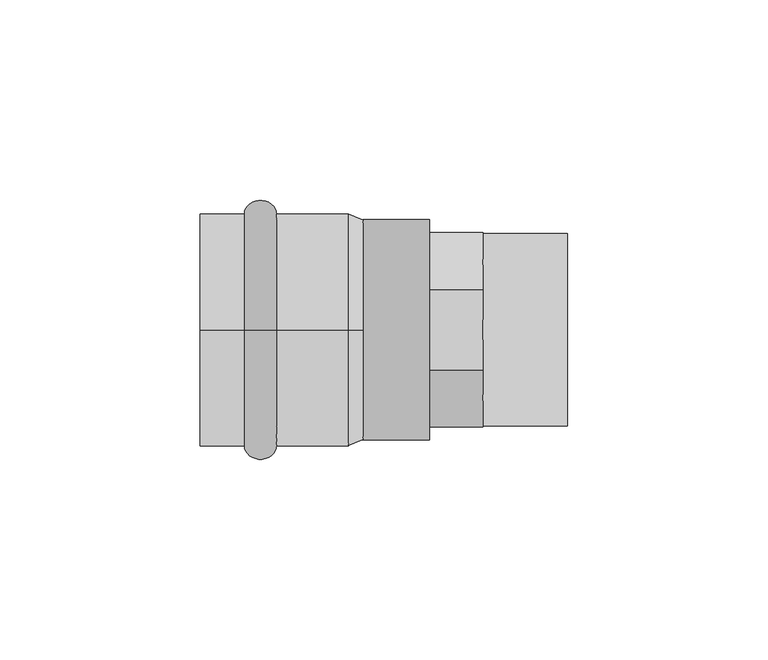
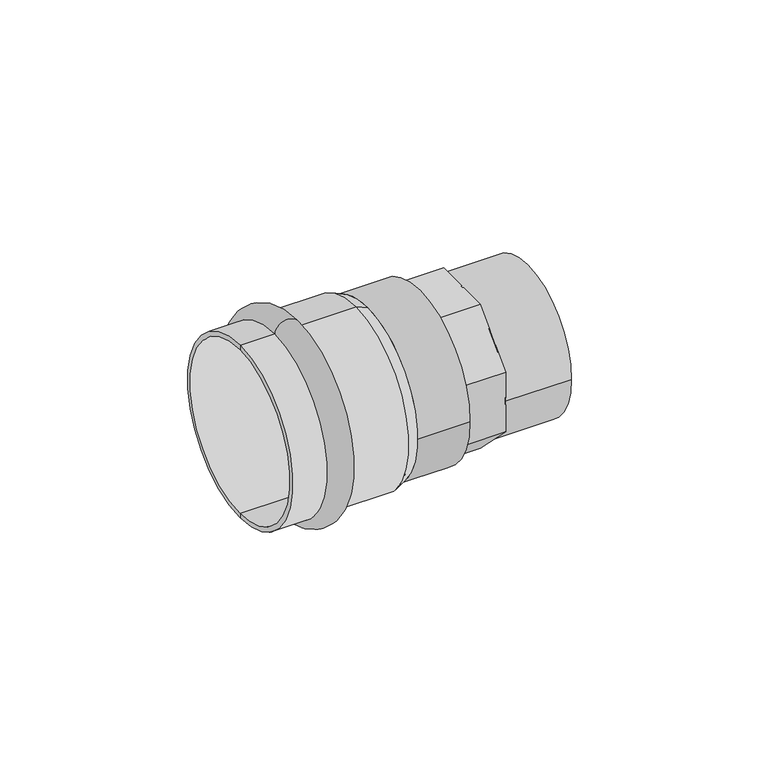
"""IFC4 building model written with IfcOpenShell, lengths in millimetres: pipe fitting geometry."""

from ifc_helpers import new_model, si_unit, point, frame, origin, origin_2d, place, context, project, spatial, polyline, circle_curve, ellipse_curve, trimmed, segment, composite_curve, outline, extrude, source, transform, mapped, element, save
from ifc_brep_helpers import plane_surface, cylinder_surface, revolved_surface, advanced_brep


def pipe_fitting_52b1e9ff(model_context):
    return source(origin(), model_context, "Body", "SolidModel", [
        advanced_brep(
        [(-26.0, 0.0, 29.0), (-26.0, 0.0, -29.0), (-18.0, 0.0, -29.0), (-18.0, 0.0, 29.0)],
        [
            (0, 1, circle_curve(frame((-26.0, 0.0, 0.0), z_axis=(-1.0, 0.0, 0.0), x_axis=(0.0, 0.0, -1.0)), 29.0)),
            (1, 2),
            (2, 3, circle_curve(frame((-18.0, 0.0, 0.0), z_axis=(1.0, 0.0, 0.0), x_axis=(0.0, 0.0, -1.0)), 29.0)),
            (3, 0),
            (1, 0, circle_curve(frame((-26.0, 0.0, 0.0), z_axis=(-1.0, 0.0, 0.0), x_axis=(0.0, 0.0, -1.0)), 29.0)),
            (3, 2, circle_curve(frame((-18.0, 0.0, 0.0), z_axis=(1.0, 0.0, 0.0), x_axis=(0.0, 0.0, -1.0)), 29.0)),
            (2, 1, ellipse_curve(frame((-22.0, 0.0, -29.0), z_axis=(0.0, 1.0, 0.0), x_axis=(-1.0, 0.0, 0.0)), 4.0, 3.5)),
            (0, 3, ellipse_curve(frame((-22.0, 0.0, 29.0), z_axis=(0.0, 1.0, 0.0), x_axis=(-1.0, 0.0, 0.0)), 4.0, 3.5)),
        ],
        [
            revolved_surface(polyline([(-18.0, 0.0, -29.0), (-26.0, 0.0, -29.0)]), (4.0, 0.0, 0.0), (1.0, 0.0, 0.0)),
            revolved_surface(trimmed(ellipse_curve(frame((-22.0, 0.0, -29.0), z_axis=(0.0, -1.0, 0.0), x_axis=(-1.0, 0.0, 0.0)), 4.0, 3.5), [point((-26.0, 0.0, -29.0))], [point((-18.0, 0.0, -29.0))], True, "CARTESIAN"), (4.0, 0.0, 0.0), (1.0, 0.0, 0.0)),
        ],
        [
            (0, [[1, 2, 3, 4]]),
            (0, [[5, -4, 6, -2]]),
            (1, [[-3, 7, -1, 8]]),
            (1, [[-6, -8, -5, -7]]),
        ],
    ),
        advanced_brep(
        [(3.5337785, 0.0, 27.5), (3.5337785, 0.0, -27.5), (0.0, 0.0, -29.0), (0.0, 0.0, 29.0), (-37.0, 0.0, 27.5), (-37.0, 0.0, -27.5), (-37.0, 0.0, 29.0), (-37.0, 0.0, -29.0)],
        [
            (0, 1, circle_curve(frame((3.5337785, 0.0, 0.0), z_axis=(-1.0, 0.0, 0.0), x_axis=(0.0, 0.0, -1.0)), 27.5)),
            (1, 2),
            (2, 3, circle_curve(frame((0.0, 0.0, 0.0), z_axis=(1.0, 0.0, 0.0), x_axis=(0.0, 0.0, -1.0)), 29.0)),
            (3, 0),
            (1, 0, circle_curve(frame((3.5337785, 0.0, 0.0), z_axis=(-1.0, 0.0, 0.0), x_axis=(0.0, 0.0, -1.0)), 27.5)),
            (3, 2, circle_curve(frame((0.0, 0.0, 0.0), z_axis=(1.0, 0.0, 0.0), x_axis=(0.0, 0.0, -1.0)), 29.0)),
            (4, 5, circle_curve(frame((-37.0, 0.0, 0.0), z_axis=(-1.0, 0.0, 0.0), x_axis=(0.0, 0.0, -1.0)), 27.5)),
            (5, 1),
            (0, 4),
            (5, 4, circle_curve(frame((-37.0, 0.0, 0.0), z_axis=(-1.0, 0.0, 0.0), x_axis=(0.0, 0.0, -1.0)), 27.5)),
            (6, 7, circle_curve(frame((-37.0, 0.0, 0.0), z_axis=(-1.0, 0.0, 0.0), x_axis=(0.0, 0.0, -1.0)), 29.0)),
            (7, 5),
            (4, 6),
            (7, 6, circle_curve(frame((-37.0, 0.0, 0.0), z_axis=(-1.0, 0.0, 0.0), x_axis=(0.0, 0.0, -1.0)), 29.0)),
            (2, 7),
            (6, 3),
        ],
        [
            revolved_surface(polyline([(0.0, 0.0, -29.0), (3.5337785, 0.0, -27.5)]), (4.0, 0.0, 0.0), (1.0, 0.0, 0.0)),
            revolved_surface(polyline([(3.5337785, 0.0, -27.5), (-37.0, 0.0, -27.5)]), (4.0, 0.0, 0.0), (1.0, 0.0, 0.0)),
            plane_surface(frame((-37.0, 0.0, 0.0), z_axis=(-1.0, 0.0, 0.0), x_axis=(0.0, 0.0, -1.0))),
            cylinder_surface(frame((4.0, 0.0, 0.0), z_axis=(1.0, 0.0, 0.0), x_axis=(0.0, 0.0, -1.0)), 29.0),
        ],
        [
            (0, [[1, 2, 3, 4]]),
            (0, [[5, -4, 6, -2]]),
            (1, [[7, 8, -1, 9]]),
            (1, [[10, -9, -5, -8]]),
            (2, [[11, 12, -7, 13]]),
            (2, [[14, -13, -10, -12]]),
            (3, [[-3, 15, -11, 16]]),
            (3, [[-6, -16, -14, -15]]),
        ],
    ),
        extrude(outline(composite_curve([segment(trimmed(circle_curve(origin_2d(), 24.0), [point((-24.0, 0.0))], [point((24.0, 0.0))], False, "CARTESIAN"), True, "CONTINUOUS"), segment(trimmed(circle_curve(origin_2d(), 24.0), [point((24.0, 0.0))], [point((-24.0, 0.0))], False, "CARTESIAN"), True, "CONTINUOUS")], self_intersect=False)), frame((33.5337785, 0.0, 0.0), z_axis=(1.0, 0.0, 0.0), x_axis=(0.0, 1.0, 0.0)), (0.0, 0.0, 1.0), 21.0),
        extrude(outline(composite_curve([segment(trimmed(circle_curve(origin_2d(), 27.5), [point((-27.5, 0.0))], [point((27.5, 0.0))], False, "CARTESIAN"), True, "CONTINUOUS"), segment(trimmed(circle_curve(origin_2d(), 27.5), [point((27.5, 0.0))], [point((-27.5, 0.0))], False, "CARTESIAN"), True, "CONTINUOUS")], self_intersect=False)), frame((3.5337785, 0.0, 0.0), z_axis=(1.0, 0.0, 0.0), x_axis=(0.0, 1.0, 0.0)), (0.0, 0.0, 1.0), 16.7),
        extrude(outline(polyline([(-24.25, 10.0446789), (-10.0446789, 24.25), (10.0446789, 24.25), (24.25, 10.0446789), (24.25, -10.0446789), (10.0446789, -24.25), (-10.0446789, -24.25), (-24.25, -10.0446789), (-24.25, 10.0446789)]), holes=[polyline([(9.3198052, -22.5), (22.5, -9.3198052), (22.5, 9.3198052), (9.3198052, 22.5), (-9.3198052, 22.5), (-22.5, 9.3198052), (-22.5, -9.3198052), (-9.3198052, -22.5), (9.3198052, -22.5)])]), frame((20.2337785, 0.0, 0.0), z_axis=(1.0, 0.0, 0.0), x_axis=(0.0, 1.0, 0.0)), (0.0, 0.0, 1.0), 13.3),
    ])


if __name__ == "__main__":
    model = new_model("IFC4")
    model_context = context("Model", 3, world=origin())
    ifc_project = project(units=[si_unit("LENGTHUNIT", "METRE", prefix="MILLI")], contexts=[model_context])
    site = spatial("IfcSite", under=ifc_project)
    building = spatial("IfcBuilding", under=site)
    placement = place(None, origin())
    pipe_fitting_shape = pipe_fitting_52b1e9ff(model_context)
    element("IfcPipeFitting", 1, ObjectType="РЕХАУ_Пресс Муфта НР : 54 x R 1 1/2\"", at=placement, inside=building, context=model_context, shape_type="MappedRepresentation", body=[
        mapped(pipe_fitting_shape, transform((0.0, 0.0, 0.0), x_axis=(1.0, 0.0, 0.0), y_axis=(0.0, 1.0, 0.0), z_axis=(0.0, 0.0, 1.0))),
    ])
    save(model, "model.ifc")
